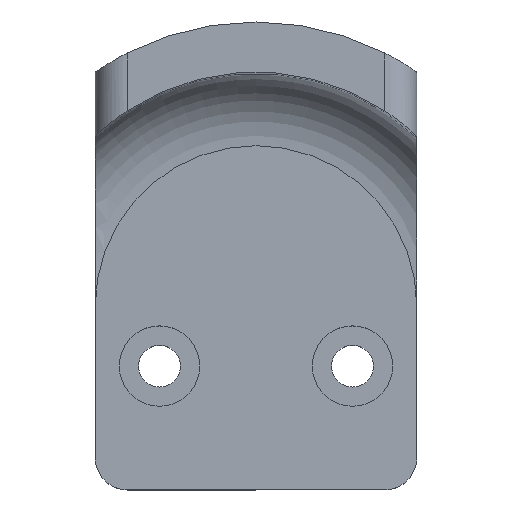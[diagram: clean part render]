
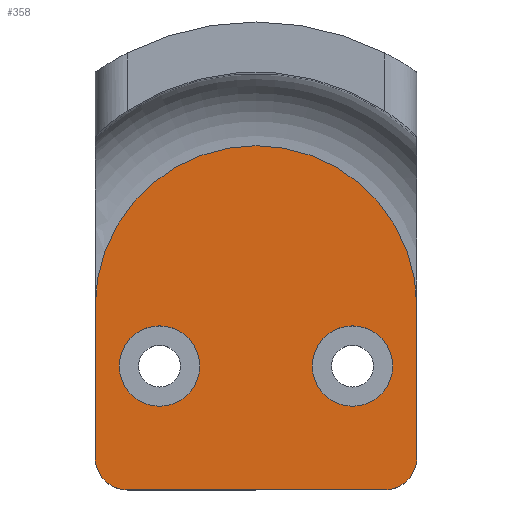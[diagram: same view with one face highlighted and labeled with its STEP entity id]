
A CAD part, top view. The second image highlights one B-rep face of the part: STEP entity #358.
In plain terms, the highlighted planar face has unit normal (0, 0, 1).
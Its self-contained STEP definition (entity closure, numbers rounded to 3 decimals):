
#30=FACE_BOUND('',#83,.T.);
#31=FACE_BOUND('',#84,.T.);
#39=CIRCLE('',#393,2.);
#40=CIRCLE('',#396,2.);
#43=CIRCLE('',#401,10.);
#44=CIRCLE('',#403,2.5);
#45=CIRCLE('',#404,2.5);
#59=FACE_OUTER_BOUND('',#82,.T.);
#82=EDGE_LOOP('',(#288,#289,#290,#291,#292,#293));
#83=EDGE_LOOP('',(#294));
#84=EDGE_LOOP('',(#295));
#115=LINE('',#564,#137);
#121=LINE('',#588,#143);
#126=LINE('',#697,#148);
#137=VECTOR('',#429,10.);
#143=VECTOR('',#453,10.);
#148=VECTOR('',#474,1000.);
#162=VERTEX_POINT('',#544);
#163=VERTEX_POINT('',#563);
#170=VERTEX_POINT('',#581);
#171=VERTEX_POINT('',#583);
#172=VERTEX_POINT('',#587);
#178=VERTEX_POINT('',#630);
#181=VERTEX_POINT('',#698);
#182=VERTEX_POINT('',#700);
#196=EDGE_CURVE('',#162,#163,#115,.T.);
#206=EDGE_CURVE('',#171,#170,#39,.T.);
#208=EDGE_CURVE('',#171,#172,#121,.T.);
#215=EDGE_CURVE('',#178,#163,#40,.T.);
#223=EDGE_CURVE('',#172,#162,#43,.T.);
#224=EDGE_CURVE('',#178,#170,#126,.T.);
#225=EDGE_CURVE('',#181,#181,#44,.T.);
#226=EDGE_CURVE('',#182,#182,#45,.T.);
#288=ORIENTED_EDGE('',*,*,#223,.F.);
#289=ORIENTED_EDGE('',*,*,#208,.F.);
#290=ORIENTED_EDGE('',*,*,#206,.T.);
#291=ORIENTED_EDGE('',*,*,#224,.F.);
#292=ORIENTED_EDGE('',*,*,#215,.T.);
#293=ORIENTED_EDGE('',*,*,#196,.F.);
#294=ORIENTED_EDGE('',*,*,#225,.F.);
#295=ORIENTED_EDGE('',*,*,#226,.F.);
#345=PLANE('',#402);
#358=ADVANCED_FACE('',(#59,#30,#31),#345,.T.);
#393=AXIS2_PLACEMENT_3D('',#584,#448,#449);
#396=AXIS2_PLACEMENT_3D('',#631,#459,#460);
#401=AXIS2_PLACEMENT_3D('',#695,#470,#471);
#402=AXIS2_PLACEMENT_3D('',#696,#472,#473);
#403=AXIS2_PLACEMENT_3D('',#699,#475,#476);
#404=AXIS2_PLACEMENT_3D('',#701,#477,#478);
#429=DIRECTION('',(0.,-1.,0.));
#448=DIRECTION('center_axis',(0.,0.,
1.));
#449=DIRECTION('ref_axis',(0.,-1.,0.));
#453=DIRECTION('',(0.,1.,0.));
#459=DIRECTION('center_axis',(0.,0.,
1.));
#460=DIRECTION('ref_axis',(0.,-1.,0.));
#470=DIRECTION('center_axis',(0.,0.,
-1.));
#471=DIRECTION('ref_axis',(0.,1.,0.));
#472=DIRECTION('center_axis',(0.,0.,
1.));
#473=DIRECTION('ref_axis',(0.,-1.,0.));
#474=DIRECTION('',(-1.,0.,0.));
#475=DIRECTION('center_axis',(0.,0.,
1.));
#476=DIRECTION('ref_axis',(0.,-1.,0.));
#477=DIRECTION('center_axis',(0.,0.,
1.));
#478=DIRECTION('ref_axis',(0.,-1.,0.));
#544=CARTESIAN_POINT('',(90.,19.5,61.1));
#563=CARTESIAN_POINT('',(90.,10.1,61.1));
#564=CARTESIAN_POINT('',(90.,17.3,61.1));
#581=CARTESIAN_POINT('',(72.,8.1,61.1));
#583=CARTESIAN_POINT('',(70.,10.1,61.1));
#584=CARTESIAN_POINT('Origin',(72.,10.1,61.1));
#587=CARTESIAN_POINT('',(70.,19.5,61.1));
#588=CARTESIAN_POINT('',(70.,22.525,61.1));
#630=CARTESIAN_POINT('',(88.,8.1,61.1));
#631=CARTESIAN_POINT('Origin',(88.,10.1,61.1));
#695=CARTESIAN_POINT('Origin',(80.,19.5,61.1));
#696=CARTESIAN_POINT('Origin',(80.,15.3,61.1));
#697=CARTESIAN_POINT('',(80.,8.1,61.1));
#698=CARTESIAN_POINT('',(86.,18.3,61.1));
#699=CARTESIAN_POINT('Origin',(86.,15.8,61.1));
#700=CARTESIAN_POINT('',(74.,18.3,61.1));
#701=CARTESIAN_POINT('Origin',(74.,15.8,61.1));
